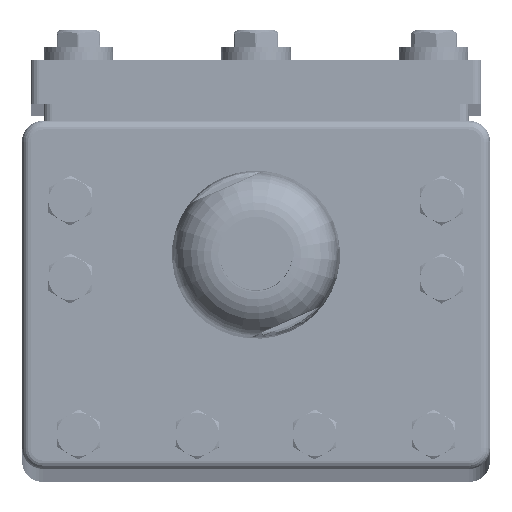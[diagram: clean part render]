
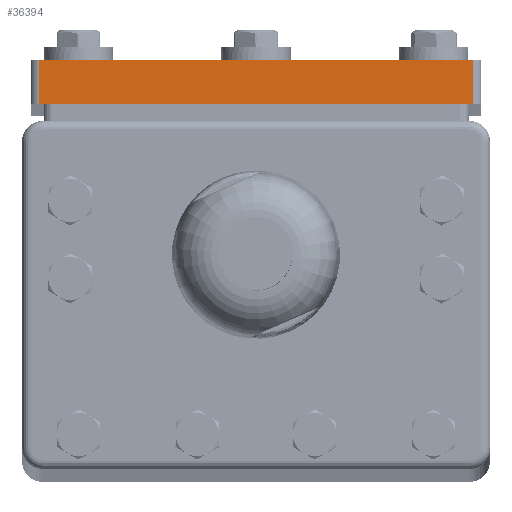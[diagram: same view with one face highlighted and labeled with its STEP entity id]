
A CAD part, top view. The second image highlights one B-rep face of the part: STEP entity #36394.
In plain terms, the highlighted planar face has unit normal (0, 0, 1).
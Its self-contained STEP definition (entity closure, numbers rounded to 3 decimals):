
#2833 = EDGE_CURVE ( 'NONE', #33007, #8308, #5138, .T. ) ;
#3261 = CARTESIAN_POINT ( 'NONE',  ( 52., 47.199, 829.75 ) ) ;
#3348 = CARTESIAN_POINT ( 'NONE',  ( 52., 42.199, 829.75 ) ) ;
#5138 = LINE ( 'NONE', #8059, #30159 ) ;
#7456 = DIRECTION ( 'NONE',  ( -1., 0., 0. ) ) ;
#7757 = VECTOR ( 'NONE', #7456, 1000. ) ;
#7914 = ORIENTED_EDGE ( 'NONE', *, *, #27536, .T. ) ;
#8059 = CARTESIAN_POINT ( 'NONE',  ( 52., 47.199, 829.75 ) ) ;
#8308 = VERTEX_POINT ( 'NONE', #3261 ) ;
#9149 = ORIENTED_EDGE ( 'NONE', *, *, #2833, .T. ) ;
#9526 = AXIS2_PLACEMENT_3D ( 'NONE', #24066, #32196, #24245 ) ;
#10053 = EDGE_CURVE ( 'NONE', #24017, #33007, #18647, .T. ) ;
#10328 = DIRECTION ( 'NONE',  ( 0., -1., 0. ) ) ;
#12571 = CARTESIAN_POINT ( 'NONE',  ( 1., 42.199, 829.75 ) ) ;
#12653 = LINE ( 'NONE', #35889, #7757 ) ;
#13241 = CARTESIAN_POINT ( 'NONE',  ( 2., 47.199, 829.75 ) ) ;
#18566 = VECTOR ( 'NONE', #10328, 1000. ) ;
#18573 = ORIENTED_EDGE ( 'NONE', *, *, #36373, .T. ) ;
#18647 = LINE ( 'NONE', #12571, #26715 ) ;
#21713 = EDGE_LOOP ( 'NONE', ( #34204, #9149, #18573, #7914 ) ) ;
#23479 = DIRECTION ( 'NONE',  ( 1., 0., 0. ) ) ;
#23826 = LINE ( 'NONE', #26581, #18566 ) ;
#24017 = VERTEX_POINT ( 'NONE', #30437 ) ;
#24066 = CARTESIAN_POINT ( 'NONE',  ( 0., 0., 829.75 ) ) ;
#24245 = DIRECTION ( 'NONE',  ( -1., 0., 0. ) ) ;
#24445 = FACE_OUTER_BOUND ( 'NONE', #21713, .T. ) ;
#24680 = DIRECTION ( 'NONE',  ( 0., 1., 0. ) ) ;
#25464 = VERTEX_POINT ( 'NONE', #13241 ) ;
#26581 = CARTESIAN_POINT ( 'NONE',  ( 2., 42.199, 829.75 ) ) ;
#26715 = VECTOR ( 'NONE', #23479, 1000. ) ;
#26853 = PLANE ( 'NONE',  #9526 ) ;
#27536 = EDGE_CURVE ( 'NONE', #25464, #24017, #23826, .T. ) ;
#30159 = VECTOR ( 'NONE', #24680, 1000. ) ;
#30437 = CARTESIAN_POINT ( 'NONE',  ( 2., 42.199, 829.75 ) ) ;
#32196 = DIRECTION ( 'NONE',  ( 0., 0., -1. ) ) ;
#33007 = VERTEX_POINT ( 'NONE', #3348 ) ;
#34204 = ORIENTED_EDGE ( 'NONE', *, *, #10053, .T. ) ;
#35889 = CARTESIAN_POINT ( 'NONE',  ( 1., 47.199, 829.75 ) ) ;
#36373 = EDGE_CURVE ( 'NONE', #8308, #25464, #12653, .T. ) ;
#36394 = ADVANCED_FACE ( 'NONE', ( #24445 ), #26853, .F. ) ;
